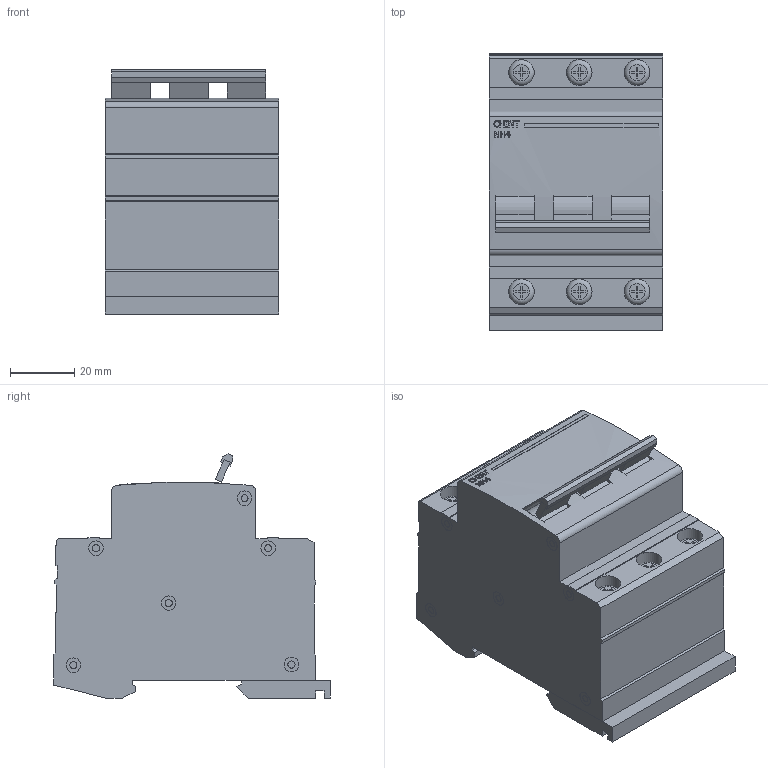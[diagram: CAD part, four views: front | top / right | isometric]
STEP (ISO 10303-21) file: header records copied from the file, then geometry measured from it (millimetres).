
FILE_DESCRIPTION(/* description */ (''),/* implementation_level */ '2;1');
FILE_NAME(/* name */ 'D:\CHINT\NH4\Нагр. выключатель NH4 3P 32A (CHINT).stp',/* time_stamp */ '2017-09-30T15:22:58+04:00',/* author */ ('RSagdiev'),/* organization */ (''),/* preprocessor_version */ 'ST-DEVELOPER v16.5',/* originating_system */ 'Autodesk Inventor 2017',/* authorisation */ '');
FILE_SCHEMA (('AUTOMOTIVE_DESIGN { 1 0 10303 214 3 1 1 }'));
Length unit declared in the file: millimetre
Products named in the file (1): Нагр. \X2\0432044B043A043B044E0447
043004420435043B044C\X0\ NH4 3P 32A (CHINT)
Bounding box: 54 x 86 x 76.01 mm (x, y, z)
Volume: 244571.9 mm3; surface area: 37856.1 mm2
Topology: 15 solids, 23 shells, 474 faces, 1053 edges, 694 vertices
Faces by surface type: plane 355, cylinder 97, bspline 16, torus 6
Full cylindrical faces by diameter (mm): 2.111 x6, 2.171 x6, 2.212 x18, 4.524 x24, 8 x12, 13.756 x3
Entity records: 12969 total; most frequent: CARTESIAN_POINT 2502, DIRECTION 2148, ORIENTED_EDGE 1956, EDGE_CURVE 978, AXIS2_PLACEMENT_3D 743, VERTEX_POINT 694, LINE 662, VECTOR 662
